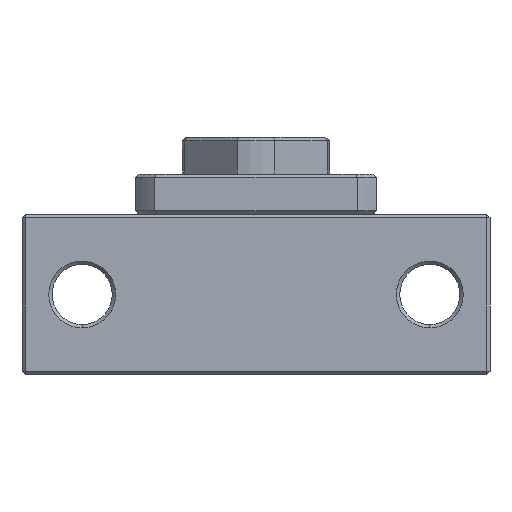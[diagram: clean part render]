
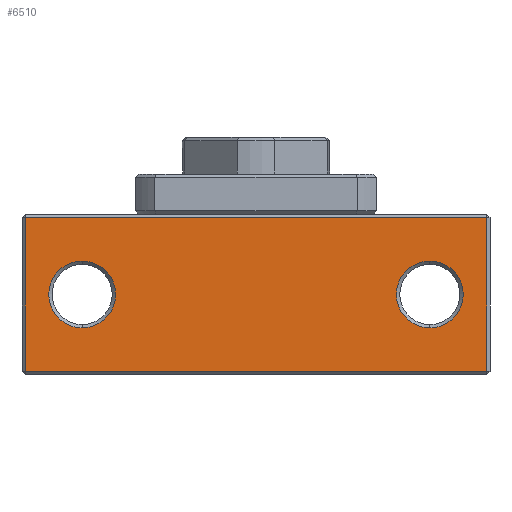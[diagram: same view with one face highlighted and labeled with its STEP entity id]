
A CAD part, front view. The second image highlights one B-rep face of the part: STEP entity #6510.
In plain terms, the highlighted planar face has unit normal (0, -1, 0).
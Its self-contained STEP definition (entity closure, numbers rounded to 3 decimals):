
#148 = EDGE_CURVE ( 'NONE', #14641, #14643, #13413, .T. ) ;
#152 = EDGE_CURVE ( 'NONE', #14644, #14823, #13382, .T. ) ;
#266 = EDGE_CURVE ( 'NONE', #5620, #6078, #13499, .T. ) ;
#267 = EDGE_CURVE ( 'NONE', #6078, #6054, #13507, .T. ) ;
#270 = EDGE_CURVE ( 'NONE', #14823, #14644, #13498, .T. ) ;
#271 = EDGE_CURVE ( 'NONE', #14643, #14641, #13018, .T. ) ;
#275 = EDGE_CURVE ( 'NONE', #6050, #5620, #13010, .T. ) ;
#361 = EDGE_CURVE ( 'NONE', #6054, #6050, #12428, .T. ) ;
#836 = FACE_BOUND ( 'NONE', #2001, .T. ) ;
#837 = FACE_OUTER_BOUND ( 'NONE', #2085, .T. ) ;
#839 = FACE_BOUND ( 'NONE', #2101, .T. ) ;
#1116 = DIRECTION ( 'NONE',  ( 0., -1., 0. ) ) ;
#1125 = DIRECTION ( 'NONE',  ( 0., 0., -1. ) ) ;
#1158 = DIRECTION ( 'NONE',  ( 0., 0., -1. ) ) ;
#1190 = CARTESIAN_POINT ( 'NONE',  ( 26., 0., 0. ) ) ;
#1230 = DIRECTION ( 'NONE',  ( 0., -1., 0. ) ) ;
#1231 = CARTESIAN_POINT ( 'NONE',  ( -26., 0., 0. ) ) ;
#2001 = EDGE_LOOP ( 'NONE', ( #6163, #6164 ) ) ;
#2085 = EDGE_LOOP ( 'NONE', ( #6167, #6168, #6169, #6170 ) ) ;
#2101 = EDGE_LOOP ( 'NONE', ( #6165, #6166 ) ) ;
#4056 = DIRECTION ( 'NONE',  ( 0., 1., 0. ) ) ;
#4062 = CARTESIAN_POINT ( 'NONE',  ( -35., 0., 12. ) ) ;
#4064 = PLANE ( 'NONE',  #12507 ) ;
#4066 = DIRECTION ( 'NONE',  ( 0., 0., 1. ) ) ;
#5620 = VERTEX_POINT ( 'NONE', #10987 ) ;
#6050 = VERTEX_POINT ( 'NONE', #10968 ) ;
#6054 = VERTEX_POINT ( 'NONE', #10965 ) ;
#6078 = VERTEX_POINT ( 'NONE', #10943 ) ;
#6163 = ORIENTED_EDGE ( 'NONE', *, *, #271, .F. ) ;
#6164 = ORIENTED_EDGE ( 'NONE', *, *, #148, .F. ) ;
#6165 = ORIENTED_EDGE ( 'NONE', *, *, #270, .F. ) ;
#6166 = ORIENTED_EDGE ( 'NONE', *, *, #152, .F. ) ;
#6167 = ORIENTED_EDGE ( 'NONE', *, *, #361, .F. ) ;
#6168 = ORIENTED_EDGE ( 'NONE', *, *, #267, .F. ) ;
#6169 = ORIENTED_EDGE ( 'NONE', *, *, #266, .F. ) ;
#6170 = ORIENTED_EDGE ( 'NONE', *, *, #275, .F. ) ;
#6510 = ADVANCED_FACE ( 'NONE', ( #836, #839, #837 ), #4064, .F. ) ;
#7117 = AXIS2_PLACEMENT_3D ( 'NONE', #1190, #1116, #1158 ) ;
#7120 = AXIS2_PLACEMENT_3D ( 'NONE', #1231, #1230, #1125 ) ;
#7166 = AXIS2_PLACEMENT_3D ( 'NONE', #7566, #7567, #7568 ) ;
#7167 = AXIS2_PLACEMENT_3D ( 'NONE', #7726, #7573, #7709 ) ;
#7566 = CARTESIAN_POINT ( 'NONE',  ( -26., 0., 0. ) ) ;
#7567 = DIRECTION ( 'NONE',  ( 0., -1., 0. ) ) ;
#7568 = DIRECTION ( 'NONE',  ( 0., 0., -1. ) ) ;
#7572 = CARTESIAN_POINT ( 'NONE',  ( -34.5, 0., 12. ) ) ;
#7573 = DIRECTION ( 'NONE',  ( 0., -1., 0. ) ) ;
#7585 = DIRECTION ( 'NONE',  ( 0., 0., 1. ) ) ;
#7601 = CARTESIAN_POINT ( 'NONE',  ( -35., 0., 11.5 ) ) ;
#7603 = DIRECTION ( 'NONE',  ( 0., 0., -1. ) ) ;
#7604 = DIRECTION ( 'NONE',  ( 1., 0., 0. ) ) ;
#7709 = DIRECTION ( 'NONE',  ( 0., 0., -1. ) ) ;
#7726 = CARTESIAN_POINT ( 'NONE',  ( 26., 0., 0. ) ) ;
#7742 = DIRECTION ( 'NONE',  ( -1., 0., 0. ) ) ;
#7835 = CARTESIAN_POINT ( 'NONE',  ( -35., 0., -11.5 ) ) ;
#8059 = CARTESIAN_POINT ( 'NONE',  ( 34.5, 0., 12. ) ) ;
#10385 = CARTESIAN_POINT ( 'NONE',  ( 26., 0., -5. ) ) ;
#10387 = CARTESIAN_POINT ( 'NONE',  ( 26., 0., 5. ) ) ;
#10389 = CARTESIAN_POINT ( 'NONE',  ( -26., 0., 5. ) ) ;
#10617 = CARTESIAN_POINT ( 'NONE',  ( -26., 0., -5. ) ) ;
#10943 = CARTESIAN_POINT ( 'NONE',  ( 34.5, 0., 11.5 ) ) ;
#10965 = CARTESIAN_POINT ( 'NONE',  ( 34.5, 0., -11.5 ) ) ;
#10968 = CARTESIAN_POINT ( 'NONE',  ( -34.5, 0., -11.5 ) ) ;
#10987 = CARTESIAN_POINT ( 'NONE',  ( -34.5, 0., 11.5 ) ) ;
#12428 = LINE ( 'NONE', #7835, #12443 ) ;
#12443 = VECTOR ( 'NONE', #7742, 1000. ) ;
#12507 = AXIS2_PLACEMENT_3D ( 'NONE', #4062, #4056, #4066 ) ;
#13010 = LINE ( 'NONE', #7572, #13309 ) ;
#13018 = CIRCLE ( 'NONE', #7167, 5. ) ;
#13026 = VECTOR ( 'NONE', #7603, 1000. ) ;
#13309 = VECTOR ( 'NONE', #7585, 1000. ) ;
#13382 = CIRCLE ( 'NONE', #7120, 5. ) ;
#13413 = CIRCLE ( 'NONE', #7117, 5. ) ;
#13486 = VECTOR ( 'NONE', #7604, 1000. ) ;
#13498 = CIRCLE ( 'NONE', #7166, 5. ) ;
#13499 = LINE ( 'NONE', #7601, #13486 ) ;
#13507 = LINE ( 'NONE', #8059, #13026 ) ;
#14641 = VERTEX_POINT ( 'NONE', #10387 ) ;
#14643 = VERTEX_POINT ( 'NONE', #10385 ) ;
#14644 = VERTEX_POINT ( 'NONE', #10389 ) ;
#14823 = VERTEX_POINT ( 'NONE', #10617 ) ;
